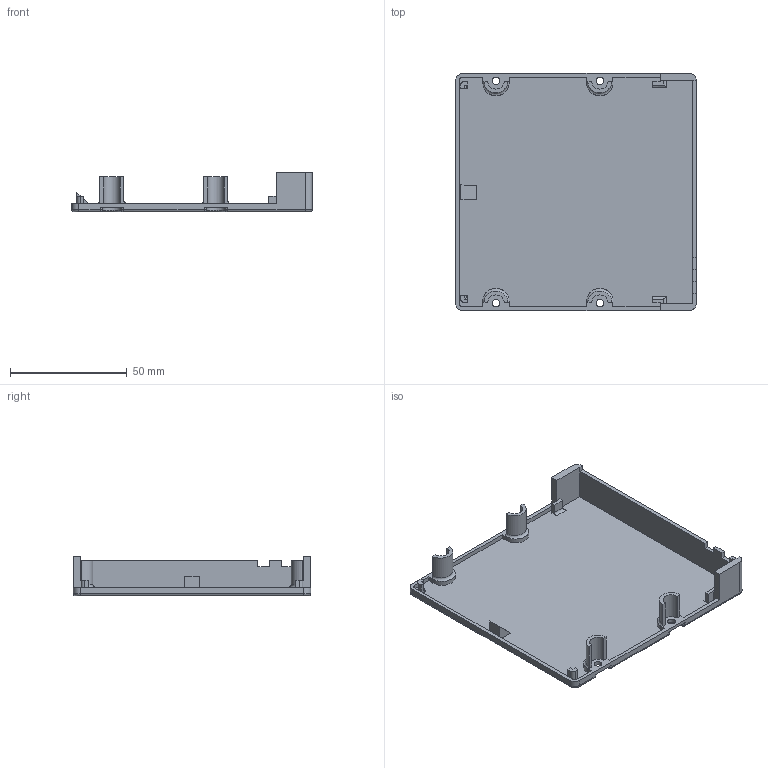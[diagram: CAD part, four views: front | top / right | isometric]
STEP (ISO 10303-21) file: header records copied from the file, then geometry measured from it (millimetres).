
FILE_DESCRIPTION(/* description */ (''),/* implementation_level */ '2;1');
FILE_NAME(/* name */ 'E:/OneDrive/projects/3.5 Hard Drive 50-pin SCSI PCB/123d design/New folder/3.5 Hard Drive Case 50-pin SCSI TH 100 top cover.stp',/* time_stamp */ '2022-01-04T23:48:46-05:00',/* author */ (''),/* organization */ (''),/* preprocessor_version */ 'ST-DEVELOPER v15.2',/* originating_system */ 'Autodesk Translator Framework v2.0.0.5431',/* authorisation */ '');
FILE_SCHEMA (('AUTOMOTIVE_DESIGN { 1 0 10303 214 3 1 1 }'));
Length unit declared in the file: centimetre
Products named in the file (1): 3.5 Hard Drive Case 50-pin SCSI TH 100 top cover
Bounding box: 103 x 101.6 x 17.05 mm (x, y, z)
Volume: 22368.6 mm3; surface area: 27893.6 mm2
Topology: 1 solids, 1 shells, 176 faces, 476 edges, 297 vertices
Faces by surface type: plane 96, cylinder 60, torus 12, bspline 8
Full cylindrical faces by diameter (mm): 3.2 x4
Entity records: 5747 total; most frequent: CARTESIAN_POINT 1322, ORIENTED_EDGE 928, DIRECTION 906, EDGE_CURVE 464, LINE 312, VECTOR 312, VERTEX_POINT 297, AXIS2_PLACEMENT_3D 297
